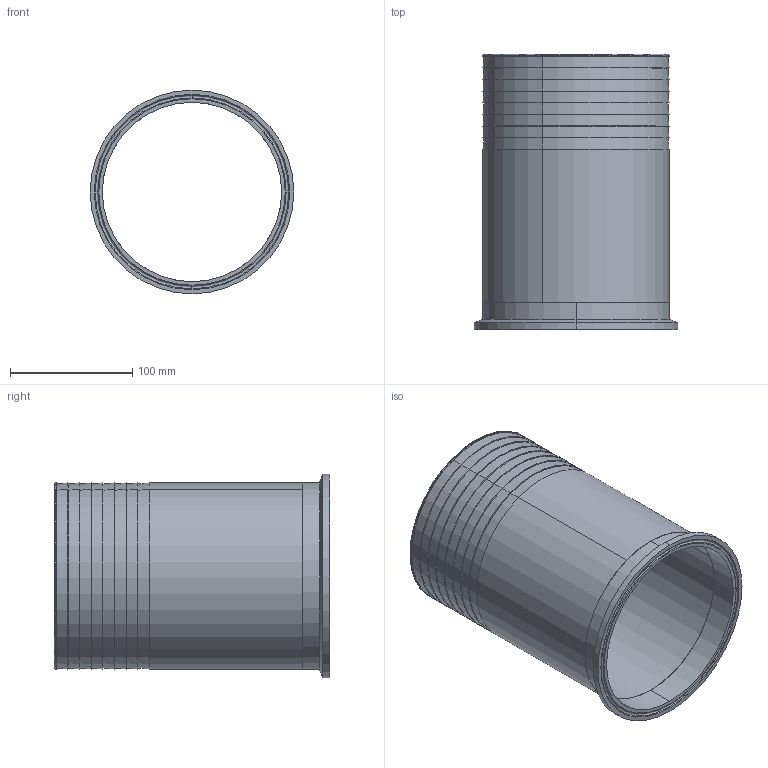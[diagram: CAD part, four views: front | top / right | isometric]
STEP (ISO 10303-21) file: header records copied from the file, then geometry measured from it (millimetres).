
FILE_DESCRIPTION (( 'STEP AP203' ), '1' );
FILE_NAME ('EG14RT6.0.STEP', '2018-05-03T14:09:12', ( 'vneprd' ), ( 'Microsoft' ), 'SwSTEP 2.0', 'SolidWorks 2014', '' );
FILE_SCHEMA (( 'CONFIG_CONTROL_DESIGN' ));
Length unit declared in the file: inch
Products named in the file (3): EG2CS6.0; V14RH6.0; EG14RT6.0
Assembly tree (2 placements, depth 2):
  EG14RT6.0
    EG2CS6.0
    V14RH6.0
Bounding box: 166.88 x 225.43 x 166.88 mm (x, y, z)
Volume: 302840 mm3; surface area: 226420.6 mm2
Topology: 2 solids, 2 shells, 61 faces, 122 edges, 66 vertices
Faces by surface type: cone 34, cylinder 12, torus 10, plane 5
Entity records: 1883 total; most frequent: DIRECTION 330, CARTESIAN_POINT 254, ORIENTED_EDGE 244, AXIS2_PLACEMENT_3D 142, EDGE_CURVE 122, CIRCLE 76, VERTEX_POINT 66, EDGE_LOOP 66
